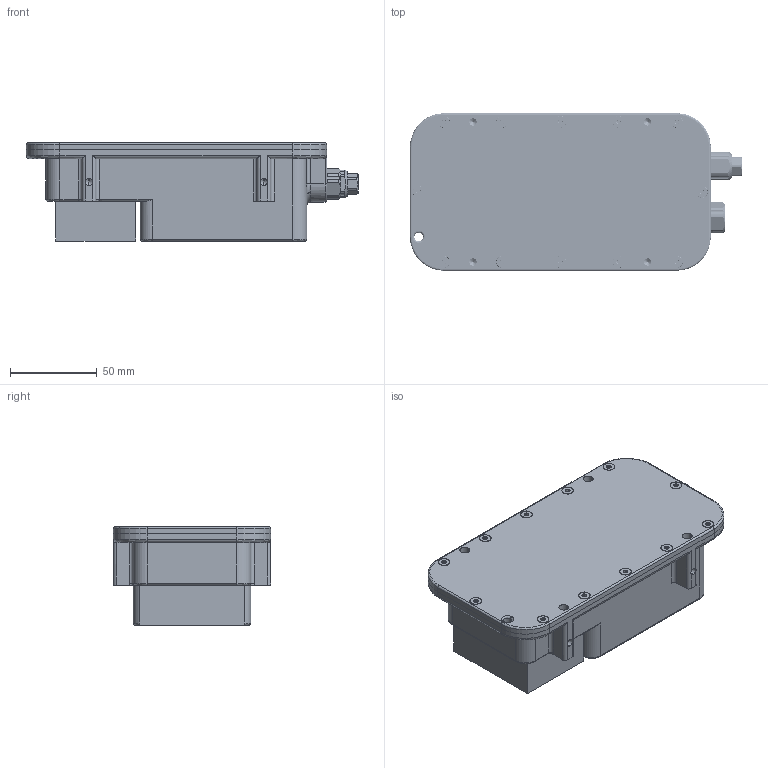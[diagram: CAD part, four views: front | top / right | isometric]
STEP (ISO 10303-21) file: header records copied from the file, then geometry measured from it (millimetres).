
FILE_DESCRIPTION (( 'STEP AP214' ), '1' );
FILE_NAME ('Surveyor_240-16_MBES.STEP', '2025-03-28T00:16:48', ( '' ), ( '' ), 'SwSTEP 2.0', 'SolidWorks 2024', '' );
FILE_SCHEMA (( 'AUTOMOTIVE_DESIGN' ));
Length unit declared in the file: metre
Products named in the file (8): Case; Back; Module; 92703A149_18-8 Stainless Steel Torx Flat Head Screws_92703A149; WL-M10-BLANK-PUBLIC; Surveyor_240-16_MBES; WLP-M10-4.5MM-PUBLIC; poly tx
Assembly tree (18 placements, depth 2):
  Surveyor_240-16_MBES
    poly tx
    Case
    Module
    Back
    92703A149_18-8 Stainless Steel Torx Flat Head Screws_92703A149  x12
    WL-M10-BLANK-PUBLIC
    WLP-M10-4.5MM-PUBLIC
Bounding box: 191.19 x 90.69 x 56.69 mm (x, y, z)
Volume: 260068.4 mm3; surface area: 133783.6 mm2
Topology: 20 solids, 20 shells, 1436 faces, 3697 edges, 2300 vertices
Faces by surface type: cylinder 845, cone 250, plane 184, bspline 80, torus 77
Entity records: 31030 total; most frequent: CARTESIAN_POINT 13521, ORIENTED_EDGE 3692, DIRECTION 3589, EDGE_CURVE 1846, AXIS2_PLACEMENT_3D 1418, VERTEX_POINT 1167, EDGE_LOOP 831, VECTOR 753
